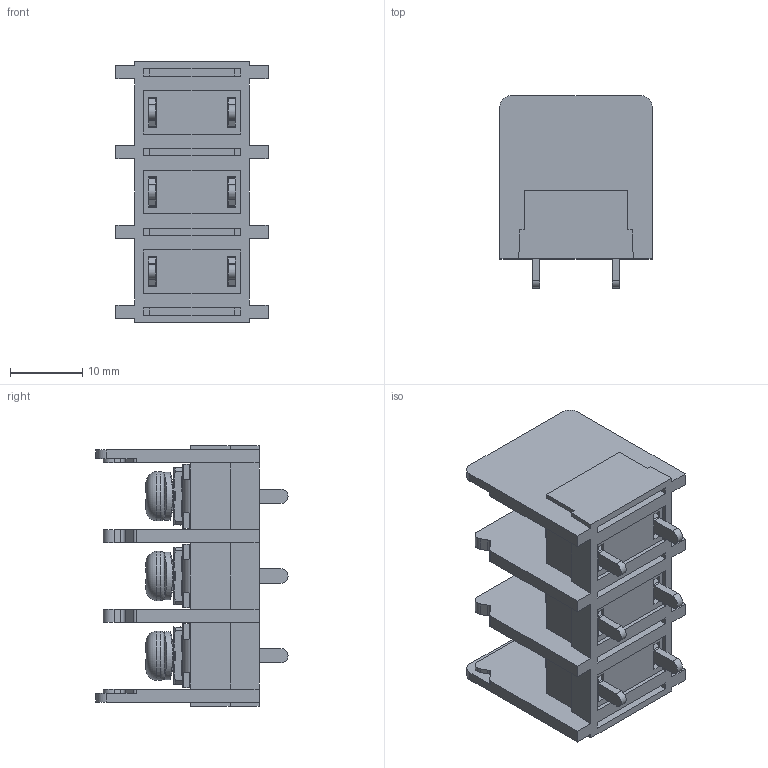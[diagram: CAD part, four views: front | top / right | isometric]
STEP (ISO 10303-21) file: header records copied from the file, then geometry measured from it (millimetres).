
FILE_DESCRIPTION((''),'2;1');
FILE_NAME('3PIN','2021-05-27T',('hanke'),(''),'CREO PARAMETRIC BY PTC INC, 2016260','CREO PARAMETRIC BY PTC INC, 2016260','');
FILE_SCHEMA(('CONFIG_CONTROL_DESIGN'));
Products named in the file (1): 3PIN
Bounding box: 21 x 26.5 x 36 mm (x, y, z)
Volume: 6991.9 mm3; surface area: 9615.8 mm2
Topology: 1 solids, 1 shells, 1636 faces, 4903 edges, 3165 vertices
Faces by surface type: plane 927, cylinder 343, bspline 162, torus 156, cone 48
Entity records: 74751 total; most frequent: CARTESIAN_POINT 31745, ORIENTED_EDGE 9794, DIRECTION 8160, EDGE_CURVE 4897, VERTEX_POINT 3165, VECTOR 2878, LINE 2878, AXIS2_PLACEMENT_3D 2641
